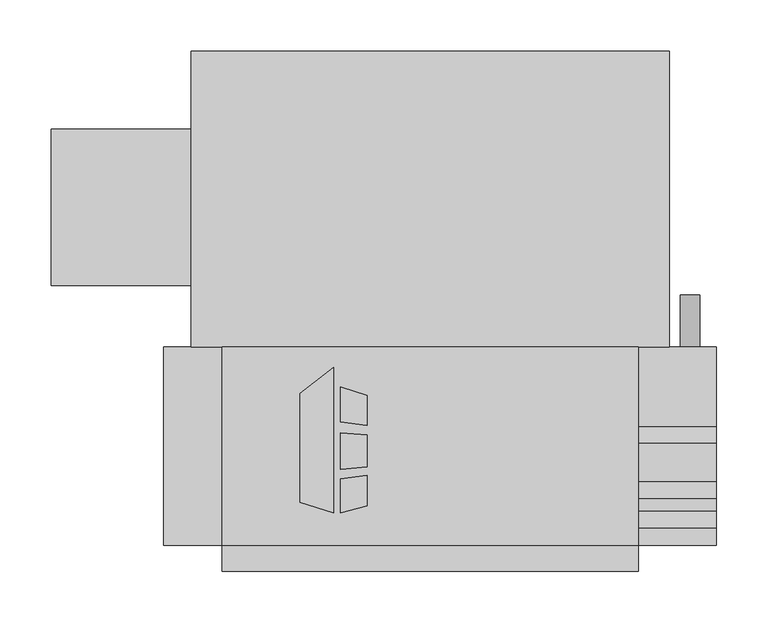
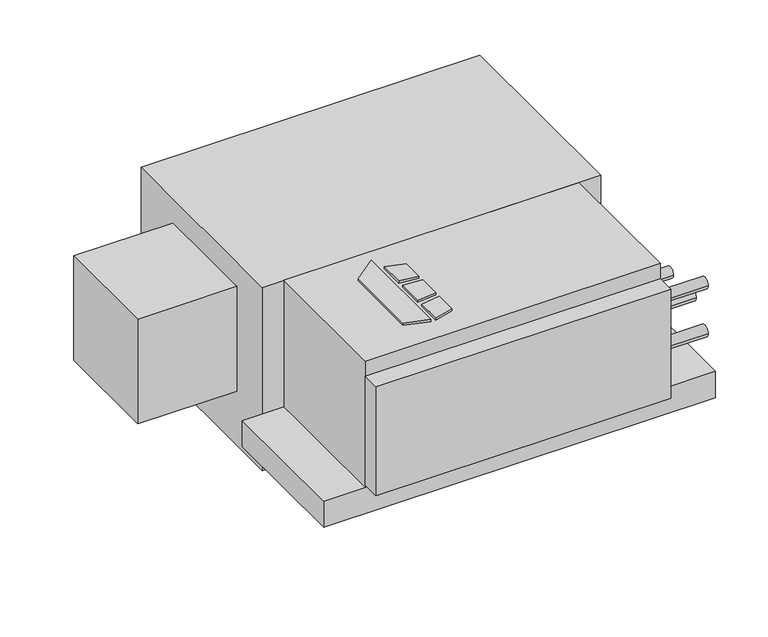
"""IFC4 building model written with IfcOpenShell, lengths in millimetres: proxy geometry, Concealed_Horizontal_Fan_Coil_Unit_With_Plenum_-_CPY_-_IEC_-_4-Pipe_RH_2022 : Size 02 - 277v/60Hz/1Ph - 4/1 Coil."""

from ifc_helpers import new_model, si_unit, point, frame, frame_2d, origin, origin_with_axes, place, context, project, spatial, polyline, circle_curve, trimmed, segment, composite_curve, outline, extrude, source, transform, mapped, element, save


def mechanical_equipment_b84d69dc(model_context):
    return source(origin(), model_context, "Body", "SweptSolid", [
        extrude(outline(polyline([(25.4, -186.6953476), (57.9582967, -161.2580184), (57.9582967, -303.2125), (25.4, -292.9929201), (25.4, -186.6953476)])), origin_with_axes(), (0.0, 0.0, 1.0), 3.175),
        extrude(outline(polyline([(64.7166297, -214.567352), (64.7166297, -180.0874379), (90.7980239, -188.2740115), (90.7980239, -217.7697446), (64.7166297, -214.567352)])), origin_with_axes(), (0.0, 0.0, 1.0), 3.175),
        extrude(outline(polyline([(90.7980239, -296.2240115), (64.7166297, -303.2125), (64.7166297, -269.9911996), (90.7980239, -266.4493564), (90.7980239, -296.2240115)])), origin_with_axes(), (0.0, 0.0, 1.0), 3.175),
        extrude(outline(polyline([(90.7980239, -226.8513277), (90.7980239, -258.101483), (64.7166297, -260.842748), (64.7166297, -224.9850378), (90.7980239, -226.8513277)])), origin_with_axes(), (0.0, 0.0, 1.0), 3.175),
        extrude(outline(composite_curve([segment(trimmed(circle_curve(frame_2d((-209.55, 406.4)), 9.525), [point((-209.55, 396.875))], [point((-209.55, 415.925))], False, "CARTESIAN"), True, "CONTINUOUS"), segment(trimmed(circle_curve(frame_2d((-209.55, 406.4)), 9.525), [point((-209.55, 415.925))], [point((-209.55, 396.875))], False, "CARTESIAN"), True, "CONTINUOUS")], self_intersect=False)), frame((0.0, -141.2875, 0.0), z_axis=(0.0, 1.0, 0.0), x_axis=(0.0, 0.0, 1.0)), (0.0, 0.0, 1.0), 50.8),
        extrude(outline(composite_curve([segment(trimmed(circle_curve(frame_2d((-309.5625, -69.85)), 7.9375), [point((-317.5, -69.85))], [point((-301.625, -69.85))], False, "CARTESIAN"), True, "CONTINUOUS"), segment(trimmed(circle_curve(frame_2d((-309.5625, -69.85)), 7.9375), [point((-301.625, -69.85))], [point((-317.5, -69.85))], False, "CARTESIAN"), True, "CONTINUOUS")], self_intersect=False)), frame((355.6, 0.0, 0.0), z_axis=(1.0, 0.0, 0.0), x_axis=(0.0, 1.0, 0.0)), (0.0, 0.0, 1.0), 76.2),
        extrude(outline(composite_curve([segment(trimmed(circle_curve(frame_2d((-309.5625, -139.7)), 7.9375), [point((-317.5, -139.7))], [point((-301.625, -139.7))], False, "CARTESIAN"), True, "CONTINUOUS"), segment(trimmed(circle_curve(frame_2d((-309.5625, -139.7)), 7.9375), [point((-301.625, -139.7))], [point((-317.5, -139.7))], False, "CARTESIAN"), True, "CONTINUOUS")], self_intersect=False)), frame((355.6, 0.0, 0.0), z_axis=(1.0, 0.0, 0.0), x_axis=(0.0, 1.0, 0.0)), (0.0, 0.0, 1.0), 76.2),
        extrude(outline(composite_curve([segment(trimmed(circle_curve(frame_2d((-227.0125, -104.775)), 7.9375), [point((-234.95, -104.775))], [point((-219.075, -104.775))], False, "CARTESIAN"), True, "CONTINUOUS"), segment(trimmed(circle_curve(frame_2d((-227.0125, -104.775)), 7.9375), [point((-219.075, -104.775))], [point((-234.95, -104.775))], False, "CARTESIAN"), True, "CONTINUOUS")], self_intersect=False)), frame((355.6, 0.0, 0.0), z_axis=(1.0, 0.0, 0.0), x_axis=(0.0, 1.0, 0.0)), (0.0, 0.0, 1.0), 76.2),
        extrude(outline(composite_curve([segment(trimmed(circle_curve(frame_2d((-280.9875, -104.775)), 7.9375), [point((-288.925, -104.775))], [point((-273.05, -104.775))], False, "CARTESIAN"), True, "CONTINUOUS"), segment(trimmed(circle_curve(frame_2d((-280.9875, -104.775)), 7.9375), [point((-273.05, -104.775))], [point((-288.925, -104.775))], False, "CARTESIAN"), True, "CONTINUOUS")], self_intersect=False)), frame((355.6, 0.0, 0.0), z_axis=(1.0, 0.0, 0.0), x_axis=(0.0, 1.0, 0.0)), (0.0, 0.0, 1.0), 76.2),
        extrude(outline(polyline([(355.6, -334.9625), (355.6, -360.3625), (-50.8, -360.3625), (-50.8, -334.9625), (355.6, -334.9625)])), frame((0.0, 0.0, -180.975), z_axis=(0.0, 0.0, 1.0), x_axis=(1.0, 0.0, 0.0)), (0.0, 0.0, 1.0), 158.75),
        extrude(outline(polyline([(355.6, -334.9625), (-50.8, -334.9625), (-50.8, -141.2875), (355.6, -141.2875), (355.6, -334.9625)])), frame((0.0, 0.0, -184.15), z_axis=(0.0, 0.0, 1.0), x_axis=(1.0, 0.0, 0.0)), (0.0, 0.0, 1.0), 184.15),
        extrude(outline(polyline([(431.8, -141.2875), (431.8, -334.9625), (-107.95, -334.9625), (-107.95, -141.2875), (431.8, -141.2875)])), frame((0.0, 0.0, -222.25), z_axis=(0.0, 0.0, 1.0), x_axis=(1.0, 0.0, 0.0)), (0.0, 0.0, 1.0), 38.1),
        extrude(outline(polyline([(-217.4875, -80.9625), (-217.4875, 71.4375), (-80.9625, 71.4375), (-80.9625, -80.9625), (-217.4875, -80.9625)])), frame((0.0, 0.0, -187.325), z_axis=(0.0, 0.0, 1.0), x_axis=(1.0, 0.0, 0.0)), (0.0, 0.0, 1.0), 152.4),
        extrude(outline(polyline([(-80.9625, 147.6375), (385.7625, 147.6375), (385.7625, -141.2875), (-80.9625, -141.2875), (-80.9625, 147.6375)])), frame((0.0, 0.0, -266.7), z_axis=(0.0, 0.0, 1.0), x_axis=(1.0, 0.0, 0.0)), (0.0, 0.0, 1.0), 266.7),
    ])


if __name__ == "__main__":
    model = new_model("IFC4")
    model_context = context("Model", 3, world=origin())
    ifc_project = project(units=[si_unit("LENGTHUNIT", "METRE", prefix="MILLI")], contexts=[model_context])
    site = spatial("IfcSite", under=ifc_project)
    building = spatial("IfcBuilding", under=site)
    placement = place(None, origin())
    mechanical_equipment_shape = mechanical_equipment_b84d69dc(model_context)
    element("IfcBuildingElementProxy", 1, Name="Concealed_Horizontal_Fan_Coil_Unit_With_Plenum_-_CPY_-_IEC_-_4-Pipe_RH_2022 : Size 02 - 277v/60Hz/1Ph - 4/1 Coil", ObjectType="Concealed_Horizontal_Fan_Coil_Unit_With_Plenum_-_CPY_-_IEC_-_4-Pipe_RH_2022 : Size 02 - 277v/60Hz/1Ph - 4/1 Coil", at=placement, inside=building, context=model_context, shape_type="MappedRepresentation", body=[
        mapped(mechanical_equipment_shape, transform((0.0, 0.0, 0.0), x_axis=(1.0, 0.0, 0.0), y_axis=(0.0, 1.0, 0.0), z_axis=(0.0, 0.0, 1.0))),
    ])
    save(model, "model.ifc")
